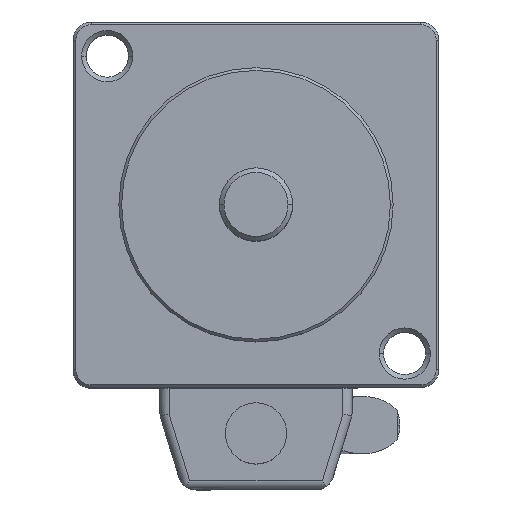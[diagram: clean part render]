
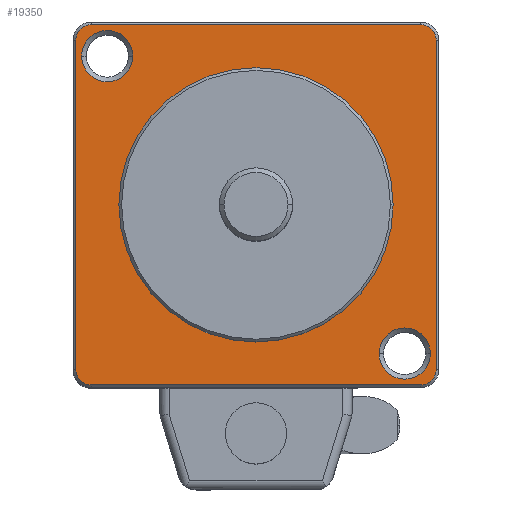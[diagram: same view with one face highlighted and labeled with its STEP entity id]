
A CAD part, top view. The second image highlights one B-rep face of the part: STEP entity #19350.
In plain terms, the highlighted planar face has unit normal (0, 0, 1).
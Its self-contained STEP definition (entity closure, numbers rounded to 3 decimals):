
#527 = ORIENTED_EDGE ( 'NONE', *, *, #3240, .T. ) ;
#528 = ORIENTED_EDGE ( 'NONE', *, *, #2897, .T. ) ;
#529 = ORIENTED_EDGE ( 'NONE', *, *, #3244, .T. ) ;
#530 = ORIENTED_EDGE ( 'NONE', *, *, #2895, .T. ) ;
#1386 = LINE ( 'NONE', #1921, #1388 ) ;
#1388 = VECTOR ( 'NONE', #1922, 1000. ) ;
#1395 = CIRCLE ( 'NONE', #3379, 1.7 ) ;
#1399 = LINE ( 'NONE', #14200, #1401 ) ;
#1401 = VECTOR ( 'NONE', #14201, 1000. ) ;
#1407 = CIRCLE ( 'NONE', #3381, 1.7 ) ;
#1409 = LINE ( 'NONE', #14228, #1411 ) ;
#1411 = VECTOR ( 'NONE', #14229, 1000. ) ;
#1416 = CIRCLE ( 'NONE', #3383, 1.7 ) ;
#1422 = LINE ( 'NONE', #14262, #1423 ) ;
#1423 = VECTOR ( 'NONE', #14263, 1000. ) ;
#1426 = CIRCLE ( 'NONE', #3385, 1.7 ) ;
#1427 = CIRCLE ( 'NONE', #3386, 15. ) ;
#1429 = CIRCLE ( 'NONE', #3388, 2.8 ) ;
#1430 = CIRCLE ( 'NONE', #3389, 2.8 ) ;
#1921 = CARTESIAN_POINT ( 'NONE',  ( -25.365, 3.701, 24.475 ) ) ;
#1922 = DIRECTION ( 'NONE',  ( 0., -1., 0. ) ) ;
#2865 = EDGE_CURVE ( 'NONE', #14742, #14743, #1386, .T. ) ;
#2869 = EDGE_CURVE ( 'NONE', #14743, #14744, #1395, .T. ) ;
#2873 = EDGE_CURVE ( 'NONE', #14744, #14745, #1399, .T. ) ;
#2877 = EDGE_CURVE ( 'NONE', #14745, #14746, #1407, .T. ) ;
#2881 = EDGE_CURVE ( 'NONE', #14746, #14747, #1409, .T. ) ;
#2885 = EDGE_CURVE ( 'NONE', #14747, #14748, #1416, .T. ) ;
#2889 = EDGE_CURVE ( 'NONE', #14748, #14749, #1422, .T. ) ;
#2892 = EDGE_CURVE ( 'NONE', #14749, #14742, #1426, .T. ) ;
#2893 = EDGE_CURVE ( 'NONE', #14683, #14682, #1427, .T. ) ;
#2895 = EDGE_CURVE ( 'NONE', #14680, #14681, #1429, .T. ) ;
#2897 = EDGE_CURVE ( 'NONE', #14676, #14677, #1430, .T. ) ;
#3240 = EDGE_CURVE ( 'NONE', #14677, #14676, #13699, .T. ) ;
#3244 = EDGE_CURVE ( 'NONE', #14681, #14680, #13705, .T. ) ;
#3246 = EDGE_CURVE ( 'NONE', #14682, #14683, #13708, .T. ) ;
#3379 = AXIS2_PLACEMENT_3D ( 'NONE', #14190, #14191, #14192 ) ;
#3381 = AXIS2_PLACEMENT_3D ( 'NONE', #14216, #14217, #14218 ) ;
#3383 = AXIS2_PLACEMENT_3D ( 'NONE', #14252, #14253, #14254 ) ;
#3385 = AXIS2_PLACEMENT_3D ( 'NONE', #14284, #14285, #14286 ) ;
#3386 = AXIS2_PLACEMENT_3D ( 'NONE', #14287, #14288, #14289 ) ;
#3388 = AXIS2_PLACEMENT_3D ( 'NONE', #14293, #14294, #14295 ) ;
#3389 = AXIS2_PLACEMENT_3D ( 'NONE', #14306, #14307, #14308 ) ;
#3434 = AXIS2_PLACEMENT_3D ( 'NONE', #15641, #15642, #15643 ) ;
#3436 = AXIS2_PLACEMENT_3D ( 'NONE', #15651, #15652, #15653 ) ;
#3437 = AXIS2_PLACEMENT_3D ( 'NONE', #15656, #15657, #15658 ) ;
#6628 = AXIS2_PLACEMENT_3D ( 'NONE', #11953, #11954, #11955 ) ;
#7487 = ORIENTED_EDGE ( 'NONE', *, *, #2893, .T. ) ;
#7488 = ORIENTED_EDGE ( 'NONE', *, *, #3246, .T. ) ;
#7489 = ORIENTED_EDGE ( 'NONE', *, *, #2889, .T. ) ;
#7490 = ORIENTED_EDGE ( 'NONE', *, *, #2892, .T. ) ;
#7491 = ORIENTED_EDGE ( 'NONE', *, *, #2865, .T. ) ;
#7492 = ORIENTED_EDGE ( 'NONE', *, *, #2869, .T. ) ;
#7493 = ORIENTED_EDGE ( 'NONE', *, *, #2873, .T. ) ;
#7494 = ORIENTED_EDGE ( 'NONE', *, *, #2877, .T. ) ;
#7495 = ORIENTED_EDGE ( 'NONE', *, *, #2881, .T. ) ;
#7496 = ORIENTED_EDGE ( 'NONE', *, *, #2885, .T. ) ;
#9614 = CARTESIAN_POINT ( 'NONE',  ( 7.799, -12.562, 24.475 ) ) ;
#9615 = CARTESIAN_POINT ( 'NONE',  ( 13.399, -12.562, 24.475 ) ) ;
#9618 = CARTESIAN_POINT ( 'NONE',  ( -24.728, 19.965, 24.475 ) ) ;
#9619 = CARTESIAN_POINT ( 'NONE',  ( -19.128, 19.965, 24.475 ) ) ;
#9620 = CARTESIAN_POINT ( 'NONE',  ( -20.665, 3.701, 24.475 ) ) ;
#9621 = CARTESIAN_POINT ( 'NONE',  ( 9.335, 3.701, 24.475 ) ) ;
#9680 = CARTESIAN_POINT ( 'NONE',  ( -25.365, 21.701, 24.475 ) ) ;
#9681 = CARTESIAN_POINT ( 'NONE',  ( -25.365, -14.299, 24.475 ) ) ;
#9682 = CARTESIAN_POINT ( 'NONE',  ( -23.665, -15.999, 24.475 ) ) ;
#9683 = CARTESIAN_POINT ( 'NONE',  ( 12.335, -15.999, 24.475 ) ) ;
#9684 = CARTESIAN_POINT ( 'NONE',  ( 14.035, -14.299, 24.475 ) ) ;
#9685 = CARTESIAN_POINT ( 'NONE',  ( 14.035, 21.701, 24.475 ) ) ;
#9686 = CARTESIAN_POINT ( 'NONE',  ( 12.335, 23.401, 24.475 ) ) ;
#9687 = CARTESIAN_POINT ( 'NONE',  ( -23.665, 23.401, 24.475 ) ) ;
#11952 = PLANE ( 'NONE',  #6628 ) ;
#11953 = CARTESIAN_POINT ( 'NONE',  ( -26.35, -16.984, 24.475 ) ) ;
#11954 = DIRECTION ( 'NONE',  ( 0., 0., 1. ) ) ;
#11955 = DIRECTION ( 'NONE',  ( 1., 0., 0. ) ) ;
#12463 = FACE_BOUND ( 'NONE', #15031, .T. ) ;
#12464 = FACE_BOUND ( 'NONE', #15032, .T. ) ;
#12465 = FACE_BOUND ( 'NONE', #15033, .T. ) ;
#12466 = FACE_OUTER_BOUND ( 'NONE', #15034, .T. ) ;
#13699 = CIRCLE ( 'NONE', #3434, 2.8 ) ;
#13705 = CIRCLE ( 'NONE', #3436, 2.8 ) ;
#13708 = CIRCLE ( 'NONE', #3437, 15. ) ;
#14190 = CARTESIAN_POINT ( 'NONE',  ( -23.665, -14.299, 24.475 ) ) ;
#14191 = DIRECTION ( 'NONE',  ( 0., 0., 1. ) ) ;
#14192 = DIRECTION ( 'NONE',  ( -1., 0., 0. ) ) ;
#14200 = CARTESIAN_POINT ( 'NONE',  ( -5.665, -15.999, 24.475 ) ) ;
#14201 = DIRECTION ( 'NONE',  ( 1., 0., 0. ) ) ;
#14216 = CARTESIAN_POINT ( 'NONE',  ( 12.335, -14.299, 24.475 ) ) ;
#14217 = DIRECTION ( 'NONE',  ( 0., 0., 1. ) ) ;
#14218 = DIRECTION ( 'NONE',  ( -1., 0., 0. ) ) ;
#14228 = CARTESIAN_POINT ( 'NONE',  ( 14.035, 3.701, 24.475 ) ) ;
#14229 = DIRECTION ( 'NONE',  ( 0., 1., 0. ) ) ;
#14252 = CARTESIAN_POINT ( 'NONE',  ( 12.335, 21.701, 24.475 ) ) ;
#14253 = DIRECTION ( 'NONE',  ( 0., 0., 1. ) ) ;
#14254 = DIRECTION ( 'NONE',  ( -1., 0., 0. ) ) ;
#14262 = CARTESIAN_POINT ( 'NONE',  ( -5.665, 23.401, 24.475 ) ) ;
#14263 = DIRECTION ( 'NONE',  ( -1., 0., 0. ) ) ;
#14284 = CARTESIAN_POINT ( 'NONE',  ( -23.665, 21.701, 24.475 ) ) ;
#14285 = DIRECTION ( 'NONE',  ( 0., 0., 1. ) ) ;
#14286 = DIRECTION ( 'NONE',  ( -1., 0., 0. ) ) ;
#14287 = CARTESIAN_POINT ( 'NONE',  ( -5.665, 3.701, 24.475 ) ) ;
#14288 = DIRECTION ( 'NONE',  ( 0., 0., -1. ) ) ;
#14289 = DIRECTION ( 'NONE',  ( 1., 0., 0. ) ) ;
#14293 = CARTESIAN_POINT ( 'NONE',  ( -21.928, 19.965, 24.475 ) ) ;
#14294 = DIRECTION ( 'NONE',  ( 0., 0., -1. ) ) ;
#14295 = DIRECTION ( 'NONE',  ( 1., 0., 0. ) ) ;
#14306 = CARTESIAN_POINT ( 'NONE',  ( 10.599, -12.562, 24.475 ) ) ;
#14307 = DIRECTION ( 'NONE',  ( 0., 0., -1. ) ) ;
#14308 = DIRECTION ( 'NONE',  ( 1., 0., 0. ) ) ;
#14676 = VERTEX_POINT ( 'NONE', #9614 ) ;
#14677 = VERTEX_POINT ( 'NONE', #9615 ) ;
#14680 = VERTEX_POINT ( 'NONE', #9618 ) ;
#14681 = VERTEX_POINT ( 'NONE', #9619 ) ;
#14682 = VERTEX_POINT ( 'NONE', #9620 ) ;
#14683 = VERTEX_POINT ( 'NONE', #9621 ) ;
#14742 = VERTEX_POINT ( 'NONE', #9680 ) ;
#14743 = VERTEX_POINT ( 'NONE', #9681 ) ;
#14744 = VERTEX_POINT ( 'NONE', #9682 ) ;
#14745 = VERTEX_POINT ( 'NONE', #9683 ) ;
#14746 = VERTEX_POINT ( 'NONE', #9684 ) ;
#14747 = VERTEX_POINT ( 'NONE', #9685 ) ;
#14748 = VERTEX_POINT ( 'NONE', #9686 ) ;
#14749 = VERTEX_POINT ( 'NONE', #9687 ) ;
#15031 = EDGE_LOOP ( 'NONE', ( #527, #528 ) ) ;
#15032 = EDGE_LOOP ( 'NONE', ( #529, #530 ) ) ;
#15033 = EDGE_LOOP ( 'NONE', ( #7487, #7488 ) ) ;
#15034 = EDGE_LOOP ( 'NONE', ( #7489, #7490, #7491, #7492, #7493, #7494, #7495, #7496 ) ) ;
#15641 = CARTESIAN_POINT ( 'NONE',  ( 10.599, -12.562, 24.475 ) ) ;
#15642 = DIRECTION ( 'NONE',  ( 0., 0., -1. ) ) ;
#15643 = DIRECTION ( 'NONE',  ( 1., 0., 0. ) ) ;
#15651 = CARTESIAN_POINT ( 'NONE',  ( -21.928, 19.965, 24.475 ) ) ;
#15652 = DIRECTION ( 'NONE',  ( 0., 0., -1. ) ) ;
#15653 = DIRECTION ( 'NONE',  ( 1., 0., 0. ) ) ;
#15656 = CARTESIAN_POINT ( 'NONE',  ( -5.665, 3.701, 24.475 ) ) ;
#15657 = DIRECTION ( 'NONE',  ( 0., 0., -1. ) ) ;
#15658 = DIRECTION ( 'NONE',  ( 1., 0., 0. ) ) ;
#19350 = ADVANCED_FACE ( 'NONE', ( #12463, #12464, #12465, #12466 ), #11952, .T. ) ;
